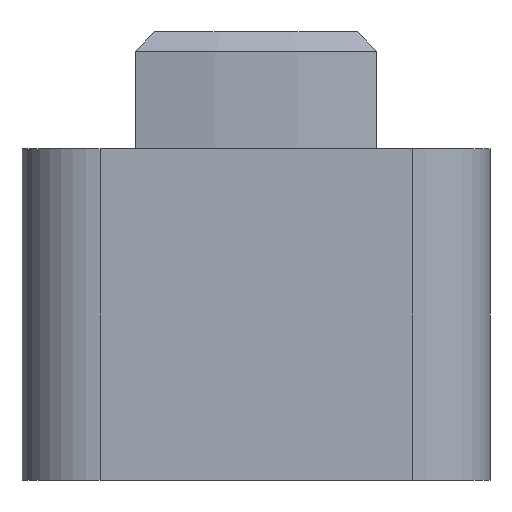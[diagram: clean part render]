
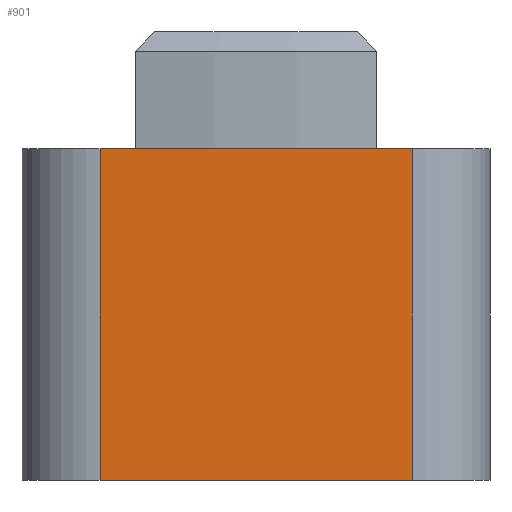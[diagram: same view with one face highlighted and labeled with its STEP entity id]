
A CAD part, front view. The second image highlights one B-rep face of the part: STEP entity #901.
In plain terms, the highlighted planar face has unit normal (0, -1, 0).
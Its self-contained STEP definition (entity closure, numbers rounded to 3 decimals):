
#627=CARTESIAN_POINT('',(4.,-11.5,8.5));
#628=VERTEX_POINT('',#627);
#636=CARTESIAN_POINT('',(4.,-11.5,0.0));
#637=VERTEX_POINT('',#636);
#638=CARTESIAN_POINT('',(4.,-11.5,8.5));
#639=DIRECTION('',(0.0,0.0,-1.0));
#640=VECTOR('',#639,8.5);
#641=LINE('',#638,#640);
#642=EDGE_CURVE('',#628,#637,#641,.T.);
#699=CARTESIAN_POINT('',(-4.,-11.5,0.0));
#700=VERTEX_POINT('',#699);
#701=CARTESIAN_POINT('',(4.,-11.5,0.0));
#702=DIRECTION('',(-1.0,0.0,0.0));
#703=VECTOR('',#702,8.);
#704=LINE('',#701,#703);
#705=EDGE_CURVE('',#637,#700,#704,.T.);
#841=CARTESIAN_POINT('',(-4.,-11.5,8.5));
#842=VERTEX_POINT('',#841);
#859=CARTESIAN_POINT('',(-4.,-11.5,0.0));
#860=DIRECTION('',(0.0,0.0,1.0));
#861=VECTOR('',#860,8.5);
#862=LINE('',#859,#861);
#863=EDGE_CURVE('',#700,#842,#862,.T.);
#885=CARTESIAN_POINT('',(6.,-11.5,0.0));
#886=DIRECTION('',(0.0,-1.0,0.0));
#887=DIRECTION('',(0.0,0.0,-1.0));
#888=AXIS2_PLACEMENT_3D('',#885,#886,#887);
#889=PLANE('',#888);
#890=ORIENTED_EDGE('',*,*,#642,.F.);
#891=CARTESIAN_POINT('',(4.,-11.5,8.5));
#892=DIRECTION('',(-1.0,0.0,0.0));
#893=VECTOR('',#892,8.);
#894=LINE('',#891,#893);
#895=EDGE_CURVE('',#628,#842,#894,.T.);
#896=ORIENTED_EDGE('',*,*,#895,.T.);
#897=ORIENTED_EDGE('',*,*,#863,.F.);
#898=ORIENTED_EDGE('',*,*,#705,.F.);
#899=EDGE_LOOP('',(#890,#896,#897,#898));
#900=FACE_OUTER_BOUND('',#899,.T.);
#901=ADVANCED_FACE('',(#900),#889,.T.);
